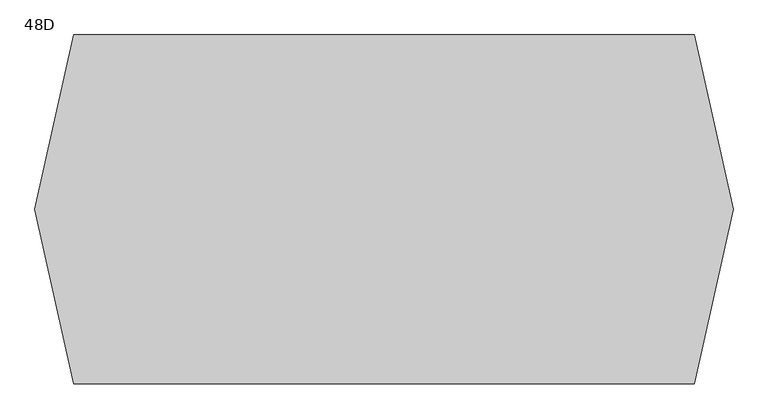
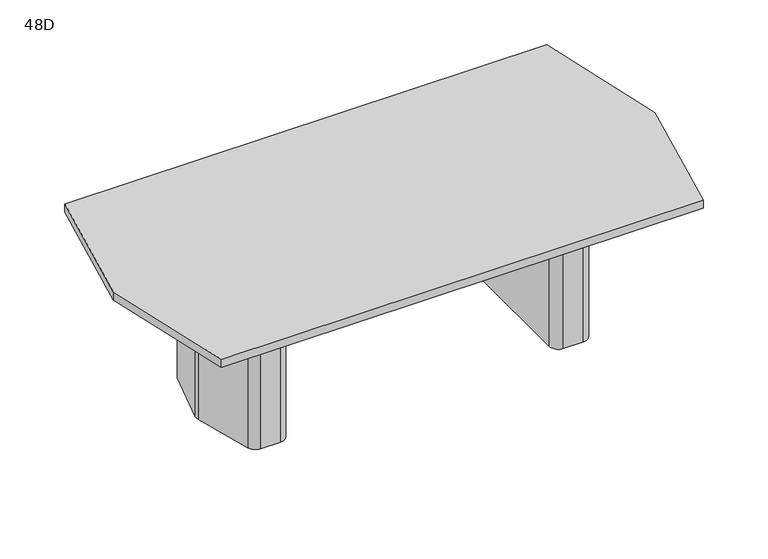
"""IFC4 building model written with IfcOpenShell, lengths in millimetres: furniture geometry, Coalesse_AM_Table_Conference_ETable2_Faceted_96in_TwoBase : 48D."""

from ifc_helpers import new_model, si_unit, frame, origin, place, context, project, spatial, polyline, circle_curve, outline, extrude, source, transform, mapped, element, save
from ifc_brep_helpers import plane_surface, cylinder_surface, revolved_surface, advanced_brep


def furniture_48d_55abd864(model_context):
    return source(origin(), model_context, "Body", "SolidModel", [
        advanced_brep(
        [(760.624548, 274.2093613, 698.5), (720.7579246, 304.8, 698.5), (631.825, 304.8, 698.5), (590.55, 263.525, 698.5), (590.55, -263.525, 698.5), (631.825, -304.8, 698.5), (720.7579246, -304.8, 698.5), (760.624548, -274.2093613, 698.5), (831.2503901, -10.6333708, 698.5), (831.2503901, 10.6333708, 698.5), (628.65, -206.375, 698.5), (628.65, 206.375, 698.5), (654.05, 231.775, 698.5), (713.0608422, 231.775, 698.5), (737.595338, 212.9490792, 698.5), (776.2875, 68.54974, 698.5), (776.2875, -68.54974, 698.5), (737.595338, -212.9490792, 698.5), (713.0608422, -231.775, 698.5), (654.05, -231.775, 698.5), (760.624548, 274.2093613, 3.175), (831.2503901, 10.6333708, 3.175), (831.2503901, -10.6333708, 3.175), (760.624548, -274.2093613, 3.175), (720.7579246, -304.8, 3.175), (631.825, -304.8, 3.175), (590.55, -263.525, 3.175), (590.55, 263.525, 3.175), (631.825, 304.8, 3.175), (720.7579246, 304.8, 3.175), (749.8625859, 216.2361187, 3.175), (713.0608422, 244.475, 3.175), (654.05, 244.475, 3.175), (615.95, 206.375, 3.175), (615.95, -206.375, 3.175), (654.05, -244.475, 3.175), (713.0608422, -244.475, 3.175), (749.8625859, -216.2361187, 3.175), (788.9875, -70.2217466, 3.175), (788.9875, 70.2217466, 3.175), (654.05, -231.775, 3.175), (628.65, -206.375, 3.175), (713.0608422, -231.775, 3.175), (737.595338, -212.9490792, 3.175), (776.2875, -68.54974, 3.175), (776.2875, 68.54974, 3.175), (737.595338, 212.9490792, 3.175), (713.0608422, 231.775, 3.175), (654.05, 231.775, 3.175), (628.65, 206.375, 3.175), (749.8625859, 216.2361187, 0.0), (788.9875, 70.2217466, 0.0), (788.9875, -70.2217466, 0.0), (749.8625859, -216.2361187, 0.0), (713.0608422, -244.475, 0.0), (654.05, -244.475, 0.0), (615.95, -206.375, 0.0), (615.95, 206.375, 0.0), (654.05, 244.475, 0.0), (713.0608422, 244.475, 0.0)],
        [
            (0, 1, circle_curve(frame((720.7579246, 263.5270004, 698.5), z_axis=(0.0, 0.0, 1.0), x_axis=(-1.0, 0.0, 0.0)), 41.2729996)),
            (1, 2),
            (2, 3, circle_curve(frame((631.825, 263.525, 698.5), z_axis=(0.0, 0.0, 1.0), x_axis=(-1.0, 0.0, 0.0)), 41.275)),
            (3, 4),
            (4, 5, circle_curve(frame((631.825, -263.525, 698.5), z_axis=(0.0, 0.0, 1.0), x_axis=(-1.0, 0.0, 0.0)), 41.275)),
            (5, 6),
            (6, 7, circle_curve(frame((720.7579246, -263.5270004, 698.5), z_axis=(0.0, 0.0, 1.0), x_axis=(-1.0, 0.0, 0.0)), 41.2729996)),
            (7, 8),
            (8, 9, circle_curve(frame((791.5665979, 0.0, 698.5), z_axis=(0.0, 0.0, 1.0), x_axis=(-1.0, 0.0, 0.0)), 41.0837187)),
            (9, 0),
            (10, 11),
            (11, 12, circle_curve(frame((654.05, 206.375, 698.5), z_axis=(0.0, 0.0, -1.0), x_axis=(-1.0, 0.0, 0.0)), 25.4)),
            (12, 13),
            (13, 14, circle_curve(frame((713.0608422, 206.375, 698.5), z_axis=(0.0, 0.0, -1.0), x_axis=(-1.0, 0.0, 0.0)), 25.4)),
            (14, 15),
            (15, 16),
            (16, 17),
            (17, 18, circle_curve(frame((713.0608422, -206.375, 698.5), z_axis=(0.0, 0.0, -1.0), x_axis=(-1.0, 0.0, 0.0)), 25.4)),
            (18, 19),
            (19, 10, circle_curve(frame((654.05, -206.375, 698.5), z_axis=(0.0, 0.0, -1.0), x_axis=(-1.0, 0.0, 0.0)), 25.4)),
            (20, 21),
            (21, 22, circle_curve(frame((791.5665979, 0.0, 3.175), z_axis=(0.0, 0.0, -1.0), x_axis=(-1.0, 0.0, 0.0)), 41.0837187)),
            (22, 23),
            (23, 24, circle_curve(frame((720.7579246, -263.5270004, 3.175), z_axis=(0.0, 0.0, -1.0), x_axis=(-1.0, 0.0, 0.0)), 41.2729996)),
            (24, 25),
            (25, 26, circle_curve(frame((631.825, -263.525, 3.175), z_axis=(0.0, 0.0, -1.0), x_axis=(-1.0, 0.0, 0.0)), 41.275)),
            (26, 27),
            (27, 28, circle_curve(frame((631.825, 263.525, 3.175), z_axis=(0.0, 0.0, -1.0), x_axis=(-1.0, 0.0, 0.0)), 41.275)),
            (28, 29),
            (29, 20, circle_curve(frame((720.7579246, 263.5270004, 3.175), z_axis=(0.0, 0.0, -1.0), x_axis=(-1.0, 0.0, 0.0)), 41.2729996)),
            (30, 31, circle_curve(frame((713.0608422, 206.375, 3.175), z_axis=(0.0, 0.0, 1.0), x_axis=(-1.0, 0.0, 0.0)), 38.1)),
            (31, 32),
            (32, 33, circle_curve(frame((654.05, 206.375, 3.175), z_axis=(0.0, 0.0, 1.0), x_axis=(-1.0, 0.0, 0.0)), 38.1)),
            (33, 34),
            (34, 35, circle_curve(frame((654.05, -206.375, 3.175), z_axis=(0.0, 0.0, 1.0), x_axis=(-1.0, 0.0, 0.0)), 38.1)),
            (35, 36),
            (36, 37, circle_curve(frame((713.0608422, -206.375, 3.175), z_axis=(0.0, 0.0, 1.0), x_axis=(-1.0, 0.0, 0.0)), 38.1)),
            (37, 38),
            (38, 39),
            (39, 30),
            (9, 21),
            (20, 0),
            (8, 22),
            (7, 23),
            (6, 24),
            (5, 25),
            (4, 26),
            (3, 27),
            (2, 28),
            (1, 29),
            (19, 40),
            (40, 41, circle_curve(frame((654.05, -206.375, 3.175), z_axis=(0.0, 0.0, -1.0), x_axis=(-1.0, 0.0, 0.0)), 25.4)),
            (41, 10),
            (18, 42),
            (42, 40),
            (17, 43),
            (43, 42, circle_curve(frame((713.0608422, -206.375, 3.175), z_axis=(0.0, 0.0, -1.0), x_axis=(-1.0, 0.0, 0.0)), 25.4)),
            (16, 44),
            (44, 43),
            (15, 45),
            (45, 44),
            (14, 46),
            (46, 45),
            (13, 47),
            (47, 46, circle_curve(frame((713.0608422, 206.375, 3.175), z_axis=(0.0, 0.0, -1.0), x_axis=(-1.0, 0.0, 0.0)), 25.4)),
            (12, 48),
            (48, 47),
            (11, 49),
            (49, 48, circle_curve(frame((654.05, 206.375, 3.175), z_axis=(0.0, 0.0, -1.0), x_axis=(-1.0, 0.0, 0.0)), 25.4)),
            (41, 49),
            (50, 51),
            (51, 52),
            (52, 53),
            (53, 54, circle_curve(frame((713.0608422, -206.375, 0.0), z_axis=(0.0, 0.0, -1.0), x_axis=(-1.0, 0.0, 0.0)), 38.1)),
            (54, 55),
            (55, 56, circle_curve(frame((654.05, -206.375, 0.0), z_axis=(0.0, 0.0, -1.0), x_axis=(-1.0, 0.0, 0.0)), 38.1)),
            (56, 57),
            (57, 58, circle_curve(frame((654.05, 206.375, 0.0), z_axis=(0.0, 0.0, -1.0), x_axis=(-1.0, 0.0, 0.0)), 38.1)),
            (58, 59),
            (59, 50, circle_curve(frame((713.0608422, 206.375, 0.0), z_axis=(0.0, 0.0, -1.0), x_axis=(-1.0, 0.0, 0.0)), 38.1)),
            (50, 30),
            (39, 51),
            (38, 52),
            (37, 53),
            (36, 54),
            (35, 55),
            (34, 56),
            (33, 57),
            (32, 58),
            (31, 59),
        ],
        [
            plane_surface(frame((831.2374275, 10.6817473, 698.5), z_axis=(0.0, 0.0, 1.0000000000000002), x_axis=(0.25882201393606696, -0.9659250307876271, 0.0))),
            plane_surface(frame((831.2374275, 10.6817473, 3.175), z_axis=(0.0, 0.0, -1.0000000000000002), x_axis=(-0.25882201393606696, 0.9659250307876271, 0.0))),
            plane_surface(frame((760.624548, 274.2093613, 698.5), z_axis=(0.9659250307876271, 0.25882201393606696, 0.0), x_axis=(0.0, 0.0, -1.0))),
            cylinder_surface(frame((791.5665979, 0.0, 3.175), z_axis=(0.0, 0.0, 1.0), x_axis=(-1.0, 0.0, 0.0)), 41.0837187),
            plane_surface(frame((831.2503901, -10.6333708, 698.5), z_axis=(0.9659250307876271, -0.2588220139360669, 0.0), x_axis=(0.0, 0.0, -1.0))),
            cylinder_surface(frame((720.7579246, -263.5270004, 3.175), z_axis=(0.0, 0.0, 1.0), x_axis=(-1.0, 0.0, 0.0)), 41.2729996),
            plane_surface(frame((720.7579246, -304.8, 698.5), z_axis=(0.0, -1.0, 0.0), x_axis=(0.0, 0.0, -1.0))),
            cylinder_surface(frame((631.825, -263.525, 3.175), z_axis=(0.0, 0.0, 1.0), x_axis=(-1.0, 0.0, 0.0)), 41.275),
            plane_surface(frame((590.55, -263.525, 698.5), z_axis=(-1.0, 0.0, 0.0), x_axis=(0.0, 0.0, -1.0))),
            cylinder_surface(frame((631.825, 263.525, 3.175), z_axis=(0.0, 0.0, 1.0), x_axis=(-1.0, 0.0, 0.0)), 41.275),
            plane_surface(frame((631.825, 304.8, 698.5), z_axis=(0.0, 1.0, 0.0), x_axis=(0.0, 0.0, -1.0))),
            cylinder_surface(frame((720.7579246, 263.5270004, 3.175), z_axis=(0.0, 0.0, 1.0), x_axis=(-1.0, 0.0, 0.0)), 41.2729996),
            revolved_surface(polyline([(628.65, -206.375, 3.175), (628.65, -206.375, 698.5)]), (654.05, -206.375, 0.0), (0.0, 0.0, -1.0)),
            plane_surface(frame((654.05, -231.775, 698.5), z_axis=(0.0, 1.0, 0.0), x_axis=(0.0, 0.0, -1.0))),
            revolved_surface(polyline([(687.6608422, -206.375, 3.175), (687.6608422, -206.375, 698.5)]), (713.0608422, -206.375, 0.0), (0.0, 0.0, -1.0)),
            plane_surface(frame((737.595338, -212.9490792, 698.5), z_axis=(-0.9659250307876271, 0.2588220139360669, 0.0), x_axis=(0.0, 0.0, -1.0))),
            plane_surface(frame((776.2875, -68.54974, 698.5), z_axis=(-1.0, 0.0, 0.0), x_axis=(0.0, 0.0, -1.0))),
            plane_surface(frame((776.2875, 68.54974, 698.5), z_axis=(-0.9659250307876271, -0.25882201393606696, 0.0), x_axis=(0.0, 0.0, -1.0))),
            revolved_surface(polyline([(687.6608422, 206.375, 3.175), (687.6608422, 206.375, 698.5)]), (713.0608422, 206.375, 0.0), (0.0, 0.0, -1.0)),
            plane_surface(frame((713.0608422, 231.775, 698.5), z_axis=(0.0, -1.0, 0.0), x_axis=(0.0, 0.0, -1.0))),
            revolved_surface(polyline([(628.65, 206.375, 3.175), (628.65, 206.375, 698.5)]), (654.05, 206.375, 0.0), (0.0, 0.0, -1.0)),
            plane_surface(frame((628.65, 206.375, 698.5), z_axis=(1.0, 0.0, 0.0), x_axis=(0.0, 0.0, -1.0))),
            plane_surface(frame((788.5547479, 71.8367796, 3.175), z_axis=(0.0, 0.0, 1.0), x_axis=(0.25882201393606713, -0.965925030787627, 0.0))),
            plane_surface(frame((788.5547479, 71.8367796, 0.0), z_axis=(0.0, 0.0, -1.0), x_axis=(-0.25882201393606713, 0.965925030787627, 0.0))),
            plane_surface(frame((749.8625859, 216.2361187, 3.175), z_axis=(0.965925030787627, 0.25882201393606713, 0.0), x_axis=(0.0, 0.0, -1.0))),
            plane_surface(frame((788.9875, 70.2217466, 3.175), z_axis=(1.0, 0.0, 0.0), x_axis=(0.0, 0.0, -1.0))),
            plane_surface(frame((788.9875, -70.2217466, 3.175), z_axis=(0.9659250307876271, -0.2588220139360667, 0.0), x_axis=(0.0, 0.0, -1.0))),
            cylinder_surface(frame((713.0608422, -206.375, 0.0), z_axis=(0.0, 0.0, 1.0), x_axis=(-1.0, 0.0, 0.0)), 38.1),
            plane_surface(frame((713.0608422, -244.475, 3.175), z_axis=(0.0, -1.0, 0.0), x_axis=(0.0, 0.0, -1.0))),
            cylinder_surface(frame((654.05, -206.375, 0.0), z_axis=(0.0, 0.0, 1.0), x_axis=(-1.0, 0.0, 0.0)), 38.1),
            plane_surface(frame((615.95, -206.375, 3.175), z_axis=(-1.0, 0.0, 0.0), x_axis=(0.0, 0.0, -1.0))),
            cylinder_surface(frame((654.05, 206.375, 0.0), z_axis=(0.0, 0.0, 1.0), x_axis=(-1.0, 0.0, 0.0)), 38.1),
            plane_surface(frame((654.05, 244.475, 3.175), z_axis=(0.0, 1.0, 0.0), x_axis=(0.0, 0.0, -1.0))),
            cylinder_surface(frame((713.0608422, 206.375, 0.0), z_axis=(0.0, 0.0, 1.0), x_axis=(-1.0, 0.0, 0.0)), 38.1),
        ],
        [
            (0, [[1, 2, 3, 4, 5, 6, 7, 8, 9, 10], [11, 12, 13, 14, 15, 16, 17, 18, 19, 20]]),
            (1, [[21, 22, 23, 24, 25, 26, 27, 28, 29, 30], [31, 32, 33, 34, 35, 36, 37, 38, 39, 40]]),
            (2, [[41, -21, 42, -10]]),
            (3, [[43, -22, -41, -9]]),
            (4, [[44, -23, -43, -8]]),
            (5, [[45, -24, -44, -7]]),
            (6, [[46, -25, -45, -6]]),
            (7, [[47, -26, -46, -5]]),
            (8, [[48, -27, -47, -4]]),
            (9, [[49, -28, -48, -3]]),
            (10, [[50, -29, -49, -2]]),
            (11, [[-42, -30, -50, -1]]),
            (12, [[51, 52, 53, -20]]),
            (13, [[54, 55, -51, -19]]),
            (14, [[56, 57, -54, -18]]),
            (15, [[58, 59, -56, -17]]),
            (16, [[60, 61, -58, -16]]),
            (17, [[62, 63, -60, -15]]),
            (18, [[64, 65, -62, -14]]),
            (19, [[66, 67, -64, -13]]),
            (20, [[68, 69, -66, -12]]),
            (21, [[-53, 70, -68, -11]]),
            (22, [[-55, -57, -59, -61, -63, -65, -67, -69, -70, -52]]),
            (23, [[71, 72, 73, 74, 75, 76, 77, 78, 79, 80]]),
            (24, [[81, -40, 82, -71]]),
            (25, [[-82, -39, 83, -72]]),
            (26, [[-83, -38, 84, -73]]),
            (27, [[-84, -37, 85, -74]]),
            (28, [[-85, -36, 86, -75]]),
            (29, [[-86, -35, 87, -76]]),
            (30, [[-87, -34, 88, -77]]),
            (31, [[-88, -33, 89, -78]]),
            (32, [[-89, -32, 90, -79]]),
            (33, [[-90, -31, -81, -80]]),
        ],
    ),
        advanced_brep(
        [(-771.737048, 274.2093613, 698.5), (-842.3628901, 10.6333708, 698.5), (-842.3628901, -10.6333708, 698.5), (-771.737048, -274.2093613, 698.5), (-731.8704246, -304.8, 698.5), (-642.9375, -304.8, 698.5), (-601.6625, -263.525, 698.5), (-601.6625, 263.525, 698.5), (-642.9375, 304.8, 698.5), (-731.8704246, 304.8, 698.5), (-639.7625, -206.375, 698.5), (-665.1625, -231.775, 698.5), (-724.1733422, -231.775, 698.5), (-748.707838, -212.9490792, 698.5), (-787.4, -68.54974, 698.5), (-787.4, 68.54974, 698.5), (-748.707838, 212.9490792, 698.5), (-724.1733422, 231.775, 698.5), (-665.1625, 231.775, 698.5), (-639.7625, 206.375, 698.5), (-771.737048, 274.2093613, 3.175), (-731.8704246, 304.8, 3.175), (-642.9375, 304.8, 3.175), (-601.6625, 263.525, 3.175), (-601.6625, -263.525, 3.175), (-642.9375, -304.8, 3.175), (-731.8704246, -304.8, 3.175), (-771.737048, -274.2093613, 3.175), (-842.3628901, -10.6333708, 3.175), (-842.3628901, 10.6333708, 3.175), (-760.9750859, 216.2361187, 3.175), (-800.1, 70.2217466, 3.175), (-800.1, -70.2217466, 3.175), (-760.9750859, -216.2361187, 3.175), (-724.1733422, -244.475, 3.175), (-665.1625, -244.475, 3.175), (-627.0625, -206.375, 3.175), (-627.0625, 206.375, 3.175), (-665.1625, 244.475, 3.175), (-724.1733422, 244.475, 3.175), (-639.7625, -206.375, 3.175), (-665.1625, -231.775, 3.175), (-724.1733422, -231.775, 3.175), (-748.707838, -212.9490792, 3.175), (-787.4, -68.54974, 3.175), (-787.4, 68.54974, 3.175), (-748.707838, 212.9490792, 3.175), (-724.1733422, 231.775, 3.175), (-665.1625, 231.775, 3.175), (-639.7625, 206.375, 3.175), (-760.9750859, 216.2361187, 0.0), (-724.1733422, 244.475, 0.0), (-665.1625, 244.475, 0.0), (-627.0625, 206.375, 0.0), (-627.0625, -206.375, 0.0), (-665.1625, -244.475, 0.0), (-724.1733422, -244.475, 0.0), (-760.9750859, -216.2361187, 0.0), (-800.1, -70.2217466, 0.0), (-800.1, 70.2217466, 0.0)],
        [
            (0, 1),
            (1, 2, circle_curve(frame((-802.6790979, 0.0, 698.5), z_axis=(0.0, 0.0, 1.0), x_axis=(1.0, 0.0, 0.0)), 41.0837187)),
            (2, 3),
            (3, 4, circle_curve(frame((-731.8704246, -263.5270004, 698.5), z_axis=(0.0, 0.0, 1.0), x_axis=(1.0, 0.0, 0.0)), 41.2729996)),
            (4, 5),
            (5, 6, circle_curve(frame((-642.9375, -263.525, 698.5), z_axis=(0.0, 0.0, 1.0), x_axis=(1.0, 0.0, 0.0)), 41.275)),
            (6, 7),
            (7, 8, circle_curve(frame((-642.9375, 263.525, 698.5), z_axis=(0.0, 0.0, 1.0), x_axis=(1.0, 0.0, 0.0)), 41.275)),
            (8, 9),
            (9, 0, circle_curve(frame((-731.8704246, 263.5270004, 698.5), z_axis=(0.0, 0.0, 1.0), x_axis=(1.0, 0.0, 0.0)), 41.2729996)),
            (10, 11, circle_curve(frame((-665.1625, -206.375, 698.5), z_axis=(0.0, 0.0, -1.0), x_axis=(1.0, 0.0, 0.0)), 25.4)),
            (11, 12),
            (12, 13, circle_curve(frame((-724.1733422, -206.375, 698.5), z_axis=(0.0, 0.0, -1.0), x_axis=(1.0, 0.0, 0.0)), 25.4)),
            (13, 14),
            (14, 15),
            (15, 16),
            (16, 17, circle_curve(frame((-724.1733422, 206.375, 698.5), z_axis=(0.0, 0.0, -1.0), x_axis=(1.0, 0.0, 0.0)), 25.4)),
            (17, 18),
            (18, 19, circle_curve(frame((-665.1625, 206.375, 698.5), z_axis=(0.0, 0.0, -1.0), x_axis=(1.0, 0.0, 0.0)), 25.4)),
            (19, 10),
            (20, 21, circle_curve(frame((-731.8704246, 263.5270004, 3.175), z_axis=(0.0, 0.0, -1.0), x_axis=(1.0, 0.0, 0.0)), 41.2729996)),
            (21, 22),
            (22, 23, circle_curve(frame((-642.9375, 263.525, 3.175), z_axis=(0.0, 0.0, -1.0), x_axis=(1.0, 0.0, 0.0)), 41.275)),
            (23, 24),
            (24, 25, circle_curve(frame((-642.9375, -263.525, 3.175), z_axis=(0.0, 0.0, -1.0), x_axis=(1.0, 0.0, 0.0)), 41.275)),
            (25, 26),
            (26, 27, circle_curve(frame((-731.8704246, -263.5270004, 3.175), z_axis=(0.0, 0.0, -1.0), x_axis=(1.0, 0.0, 0.0)), 41.2729996)),
            (27, 28),
            (28, 29, circle_curve(frame((-802.6790979, 0.0, 3.175), z_axis=(0.0, 0.0, -1.0), x_axis=(1.0, 0.0, 0.0)), 41.0837187)),
            (29, 20),
            (30, 31),
            (31, 32),
            (32, 33),
            (33, 34, circle_curve(frame((-724.1733422, -206.375, 3.175), z_axis=(0.0, 0.0, 1.0), x_axis=(1.0, 0.0, 0.0)), 38.1)),
            (34, 35),
            (35, 36, circle_curve(frame((-665.1625, -206.375, 3.175), z_axis=(0.0, 0.0, 1.0), x_axis=(1.0, 0.0, 0.0)), 38.1)),
            (36, 37),
            (37, 38, circle_curve(frame((-665.1625, 206.375, 3.175), z_axis=(0.0, 0.0, 1.0), x_axis=(1.0, 0.0, 0.0)), 38.1)),
            (38, 39),
            (39, 30, circle_curve(frame((-724.1733422, 206.375, 3.175), z_axis=(0.0, 0.0, 1.0), x_axis=(1.0, 0.0, 0.0)), 38.1)),
            (0, 20),
            (29, 1),
            (28, 2),
            (27, 3),
            (26, 4),
            (25, 5),
            (24, 6),
            (23, 7),
            (22, 8),
            (21, 9),
            (10, 40),
            (40, 41, circle_curve(frame((-665.1625, -206.375, 3.175), z_axis=(0.0, 0.0, -1.0), x_axis=(1.0, 0.0, 0.0)), 25.4)),
            (41, 11),
            (41, 42),
            (42, 12),
            (42, 43, circle_curve(frame((-724.1733422, -206.375, 3.175), z_axis=(0.0, 0.0, -1.0), x_axis=(1.0, 0.0, 0.0)), 25.4)),
            (43, 13),
            (43, 44),
            (44, 14),
            (44, 45),
            (45, 15),
            (45, 46),
            (46, 16),
            (46, 47, circle_curve(frame((-724.1733422, 206.375, 3.175), z_axis=(0.0, 0.0, -1.0), x_axis=(1.0, 0.0, 0.0)), 25.4)),
            (47, 17),
            (47, 48),
            (48, 18),
            (48, 49, circle_curve(frame((-665.1625, 206.375, 3.175), z_axis=(0.0, 0.0, -1.0), x_axis=(1.0, 0.0, 0.0)), 25.4)),
            (49, 19),
            (49, 40),
            (50, 51, circle_curve(frame((-724.1733422, 206.375, 0.0), z_axis=(0.0, 0.0, -1.0), x_axis=(1.0, 0.0, 0.0)), 38.1)),
            (51, 52),
            (52, 53, circle_curve(frame((-665.1625, 206.375, 0.0), z_axis=(0.0, 0.0, -1.0), x_axis=(1.0, 0.0, 0.0)), 38.1)),
            (53, 54),
            (54, 55, circle_curve(frame((-665.1625, -206.375, 0.0), z_axis=(0.0, 0.0, -1.0), x_axis=(1.0, 0.0, 0.0)), 38.1)),
            (55, 56),
            (56, 57, circle_curve(frame((-724.1733422, -206.375, 0.0), z_axis=(0.0, 0.0, -1.0), x_axis=(1.0, 0.0, 0.0)), 38.1)),
            (57, 58),
            (58, 59),
            (59, 50),
            (59, 31),
            (30, 50),
            (58, 32),
            (57, 33),
            (56, 34),
            (55, 35),
            (54, 36),
            (53, 37),
            (52, 38),
            (51, 39),
        ],
        [
            plane_surface(frame((-842.3499275, 10.6817473, 698.5), z_axis=(0.0, 0.0, 1.0000000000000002), x_axis=(-0.25882201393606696, -0.9659250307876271, 0.0))),
            plane_surface(frame((-842.3499275, 10.6817473, 3.175), z_axis=(0.0, 0.0, -1.0000000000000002), x_axis=(0.25882201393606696, 0.9659250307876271, 0.0))),
            plane_surface(frame((-771.737048, 274.2093613, 698.5), z_axis=(-0.9659250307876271, 0.25882201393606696, 0.0), x_axis=(0.0, 0.0, -1.0))),
            cylinder_surface(frame((-802.6790979, 0.0, 3.175), z_axis=(0.0, 0.0, 1.0), x_axis=(1.0, 0.0, 0.0)), 41.0837187),
            plane_surface(frame((-842.3628901, -10.6333708, 698.5), z_axis=(-0.9659250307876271, -0.2588220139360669, 0.0), x_axis=(0.0, 0.0, -1.0))),
            cylinder_surface(frame((-731.8704246, -263.5270004, 3.175), z_axis=(0.0, 0.0, 1.0), x_axis=(1.0, 0.0, 0.0)), 41.2729996),
            plane_surface(frame((-731.8704246, -304.8, 698.5), z_axis=(0.0, -1.0, 0.0), x_axis=(0.0, 0.0, -1.0))),
            cylinder_surface(frame((-642.9375, -263.525, 3.175), z_axis=(0.0, 0.0, 1.0), x_axis=(1.0, 0.0, 0.0)), 41.275),
            plane_surface(frame((-601.6625, -263.525, 698.5), z_axis=(1.0, 0.0, 0.0), x_axis=(0.0, 0.0, -1.0))),
            cylinder_surface(frame((-642.9375, 263.525, 3.175), z_axis=(0.0, 0.0, 1.0), x_axis=(1.0, 0.0, 0.0)), 41.275),
            plane_surface(frame((-642.9375, 304.8, 698.5), z_axis=(0.0, 1.0, 0.0), x_axis=(0.0, 0.0, -1.0))),
            cylinder_surface(frame((-731.8704246, 263.5270004, 3.175), z_axis=(0.0, 0.0, 1.0), x_axis=(1.0, 0.0, 0.0)), 41.2729996),
            revolved_surface(polyline([(-639.7625, -206.375, 3.175), (-639.7625, -206.375, 698.5)]), (-665.1625, -206.375, 0.0), (0.0, 0.0, -1.0)),
            plane_surface(frame((-665.1625, -231.775, 698.5), z_axis=(0.0, 1.0, 0.0), x_axis=(0.0, 0.0, -1.0))),
            revolved_surface(polyline([(-698.7733422, -206.375, 3.175), (-698.7733422, -206.375, 698.5)]), (-724.1733422, -206.375, 0.0), (0.0, 0.0, -1.0)),
            plane_surface(frame((-748.707838, -212.9490792, 698.5), z_axis=(0.9659250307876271, 0.2588220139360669, 0.0), x_axis=(0.0, 0.0, -1.0))),
            plane_surface(frame((-787.4, -68.54974, 698.5), z_axis=(1.0, 0.0, 0.0), x_axis=(0.0, 0.0, -1.0))),
            plane_surface(frame((-787.4, 68.54974, 698.5), z_axis=(0.9659250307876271, -0.25882201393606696, 0.0), x_axis=(0.0, 0.0, -1.0))),
            revolved_surface(polyline([(-698.7733422, 206.375, 3.175), (-698.7733422, 206.375, 698.5)]), (-724.1733422, 206.375, 0.0), (0.0, 0.0, -1.0)),
            plane_surface(frame((-724.1733422, 231.775, 698.5), z_axis=(0.0, -1.0, 0.0), x_axis=(0.0, 0.0, -1.0))),
            revolved_surface(polyline([(-639.7625, 206.375, 3.175), (-639.7625, 206.375, 698.5)]), (-665.1625, 206.375, 0.0), (0.0, 0.0, -1.0)),
            plane_surface(frame((-639.7625, 206.375, 698.5), z_axis=(-1.0, 0.0, 0.0), x_axis=(0.0, 0.0, -1.0))),
            plane_surface(frame((-799.6672479, 71.8367796, 3.175), z_axis=(0.0, 0.0, 1.0), x_axis=(-0.25882201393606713, -0.965925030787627, 0.0))),
            plane_surface(frame((-799.6672479, 71.8367796, 0.0), z_axis=(0.0, 0.0, -1.0), x_axis=(0.25882201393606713, 0.965925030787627, 0.0))),
            plane_surface(frame((-760.9750859, 216.2361187, 3.175), z_axis=(-0.965925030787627, 0.25882201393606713, 0.0), x_axis=(0.0, 0.0, -1.0))),
            plane_surface(frame((-800.1, 70.2217466, 3.175), z_axis=(-1.0, 0.0, 0.0), x_axis=(0.0, 0.0, -1.0))),
            plane_surface(frame((-800.1, -70.2217466, 3.175), z_axis=(-0.9659250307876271, -0.2588220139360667, 0.0), x_axis=(0.0, 0.0, -1.0))),
            cylinder_surface(frame((-724.1733422, -206.375, 0.0), z_axis=(0.0, 0.0, 1.0), x_axis=(1.0, 0.0, 0.0)), 38.1),
            plane_surface(frame((-724.1733422, -244.475, 3.175), z_axis=(0.0, -1.0, 0.0), x_axis=(0.0, 0.0, -1.0))),
            cylinder_surface(frame((-665.1625, -206.375, 0.0), z_axis=(0.0, 0.0, 1.0), x_axis=(1.0, 0.0, 0.0)), 38.1),
            plane_surface(frame((-627.0625, -206.375, 3.175), z_axis=(1.0, 0.0, 0.0), x_axis=(0.0, 0.0, -1.0))),
            cylinder_surface(frame((-665.1625, 206.375, 0.0), z_axis=(0.0, 0.0, 1.0), x_axis=(1.0, 0.0, 0.0)), 38.1),
            plane_surface(frame((-665.1625, 244.475, 3.175), z_axis=(0.0, 1.0, 0.0), x_axis=(0.0, 0.0, -1.0))),
            cylinder_surface(frame((-724.1733422, 206.375, 0.0), z_axis=(0.0, 0.0, 1.0), x_axis=(1.0, 0.0, 0.0)), 38.1),
        ],
        [
            (0, [[1, 2, 3, 4, 5, 6, 7, 8, 9, 10], [11, 12, 13, 14, 15, 16, 17, 18, 19, 20]]),
            (1, [[21, 22, 23, 24, 25, 26, 27, 28, 29, 30], [31, 32, 33, 34, 35, 36, 37, 38, 39, 40]]),
            (2, [[-1, 41, -30, 42]]),
            (3, [[-2, -42, -29, 43]]),
            (4, [[-3, -43, -28, 44]]),
            (5, [[-4, -44, -27, 45]]),
            (6, [[-5, -45, -26, 46]]),
            (7, [[-6, -46, -25, 47]]),
            (8, [[-7, -47, -24, 48]]),
            (9, [[-8, -48, -23, 49]]),
            (10, [[-9, -49, -22, 50]]),
            (11, [[-10, -50, -21, -41]]),
            (12, [[-11, 51, 52, 53]]),
            (13, [[-12, -53, 54, 55]]),
            (14, [[-13, -55, 56, 57]]),
            (15, [[-14, -57, 58, 59]]),
            (16, [[-15, -59, 60, 61]]),
            (17, [[-16, -61, 62, 63]]),
            (18, [[-17, -63, 64, 65]]),
            (19, [[-18, -65, 66, 67]]),
            (20, [[-19, -67, 68, 69]]),
            (21, [[-20, -69, 70, -51]]),
            (22, [[-52, -70, -68, -66, -64, -62, -60, -58, -56, -54]]),
            (23, [[71, 72, 73, 74, 75, 76, 77, 78, 79, 80]]),
            (24, [[-80, 81, -31, 82]]),
            (25, [[-79, 83, -32, -81]]),
            (26, [[-78, 84, -33, -83]]),
            (27, [[-77, 85, -34, -84]]),
            (28, [[-76, 86, -35, -85]]),
            (29, [[-75, 87, -36, -86]]),
            (30, [[-74, 88, -37, -87]]),
            (31, [[-73, 89, -38, -88]]),
            (32, [[-72, 90, -39, -89]]),
            (33, [[-71, -82, -40, -90]]),
        ],
    ),
        extrude(outline(polyline([(96.8375, 698.5), (103.1875, 698.5), (103.1875, 476.25), (-103.1875, 476.25), (-103.1875, 698.5), (-96.8375, 698.5), (-96.8375, 482.6), (96.8375, 482.6), (96.8375, 698.5)])), frame((-601.6625, 0.0, 0.0), z_axis=(1.0, 0.0, 0.0), x_axis=(0.0, 1.0, 0.0)), (0.0, 0.0, 1.0), 1192.2125),
        extrude(outline(polyline([(1084.0541794, 609.6), (1219.2, 0.0), (1084.0541794, -609.6), (-1084.0541794, -609.6), (-1219.2, 0.0), (-1084.0541794, 609.6), (1084.0541794, 609.6)])), frame((0.0, 0.0, 698.5), z_axis=(0.0, 0.0, 1.0), x_axis=(1.0, 0.0, 0.0)), (0.0, 0.0, 1.0), 38.1),
    ])


if __name__ == "__main__":
    model = new_model("IFC4")
    model_context = context("Model", 3, world=origin())
    ifc_project = project(units=[si_unit("LENGTHUNIT", "METRE", prefix="MILLI")], contexts=[model_context])
    site = spatial("IfcSite", under=ifc_project)
    building = spatial("IfcBuilding", under=site)
    placement = place(None, origin())
    furniture_48d_shape = furniture_48d_55abd864(model_context)
    element("IfcFurniture", 1, ObjectType="Coalesse_AM_Table_Conference_ETable2_Faceted_96in_TwoBase : 48D", at=placement, inside=building, context=model_context, shape_type="MappedRepresentation", body=[
        mapped(furniture_48d_shape, transform((0.0, 0.0, 0.0), x_axis=(1.0, 0.0, 0.0), y_axis=(0.0, 1.0, 0.0), z_axis=(0.0, 0.0, 1.0))),
    ])
    save(model, "model.ifc")
